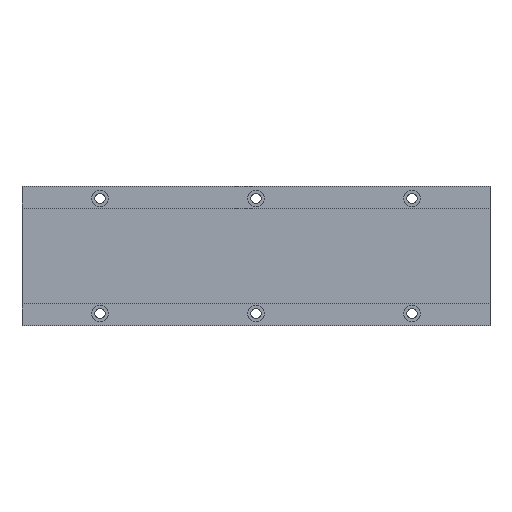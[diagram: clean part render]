
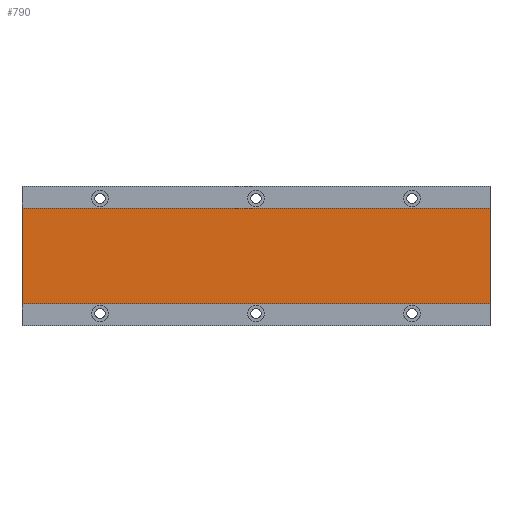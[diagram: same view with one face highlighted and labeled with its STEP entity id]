
A CAD part, top view. The second image highlights one B-rep face of the part: STEP entity #790.
In plain terms, the highlighted planar face has unit normal (0, 0, 1).
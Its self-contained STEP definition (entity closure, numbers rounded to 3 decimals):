
#31 = VERTEX_POINT ( 'NONE', #825 ) ;
#63 = DIRECTION ( 'NONE',  ( 0., 0., 1. ) ) ;
#135 = EDGE_LOOP ( 'NONE', ( #446, #1135, #1245, #1034 ) ) ;
#167 = CARTESIAN_POINT ( 'NONE',  ( 0., 0., 10.5 ) ) ;
#172 = VERTEX_POINT ( 'NONE', #404 ) ;
#249 = EDGE_CURVE ( 'NONE', #690, #1065, #743, .T. ) ;
#285 = LINE ( 'NONE', #683, #1017 ) ;
#298 = VECTOR ( 'NONE', #380, 1000. ) ;
#336 = CARTESIAN_POINT ( 'NONE',  ( -126., -25.75, 10.5 ) ) ;
#349 = DIRECTION ( 'NONE',  ( -1., 0., 0. ) ) ;
#356 = CARTESIAN_POINT ( 'NONE',  ( 126., -25.75, 10.5 ) ) ;
#380 = DIRECTION ( 'NONE',  ( 1., 0., 0. ) ) ;
#391 = DIRECTION ( 'NONE',  ( 0., -1., 0. ) ) ;
#404 = CARTESIAN_POINT ( 'NONE',  ( -126., 25.75, 10.5 ) ) ;
#446 = ORIENTED_EDGE ( 'NONE', *, *, #1021, .T. ) ;
#454 = DIRECTION ( 'NONE',  ( 1., 0., 0. ) ) ;
#513 = AXIS2_PLACEMENT_3D ( 'NONE', #167, #63, #454 ) ;
#652 = VECTOR ( 'NONE', #349, 1000. ) ;
#653 = PLANE ( 'NONE',  #513 ) ;
#656 = DIRECTION ( 'NONE',  ( 0., 1., 0. ) ) ;
#657 = CARTESIAN_POINT ( 'NONE',  ( -126., 25.75, 10.5 ) ) ;
#683 = CARTESIAN_POINT ( 'NONE',  ( -126., 25.75, 10.5 ) ) ;
#690 = VERTEX_POINT ( 'NONE', #336 ) ;
#743 = LINE ( 'NONE', #1140, #298 ) ;
#790 = ADVANCED_FACE ( 'NONE', ( #1036 ), #653, .T. ) ;
#809 = EDGE_CURVE ( 'NONE', #31, #172, #1251, .T. ) ;
#825 = CARTESIAN_POINT ( 'NONE',  ( 126., 25.75, 10.5 ) ) ;
#931 = LINE ( 'NONE', #1032, #1060 ) ;
#1017 = VECTOR ( 'NONE', #391, 1000. ) ;
#1021 = EDGE_CURVE ( 'NONE', #172, #690, #285, .T. ) ;
#1032 = CARTESIAN_POINT ( 'NONE',  ( 126., 25.75, 10.5 ) ) ;
#1034 = ORIENTED_EDGE ( 'NONE', *, *, #809, .T. ) ;
#1036 = FACE_OUTER_BOUND ( 'NONE', #135, .T. ) ;
#1060 = VECTOR ( 'NONE', #656, 1000. ) ;
#1065 = VERTEX_POINT ( 'NONE', #356 ) ;
#1090 = EDGE_CURVE ( 'NONE', #1065, #31, #931, .T. ) ;
#1135 = ORIENTED_EDGE ( 'NONE', *, *, #249, .T. ) ;
#1140 = CARTESIAN_POINT ( 'NONE',  ( -126., -25.75, 10.5 ) ) ;
#1245 = ORIENTED_EDGE ( 'NONE', *, *, #1090, .T. ) ;
#1251 = LINE ( 'NONE', #657, #652 ) ;
